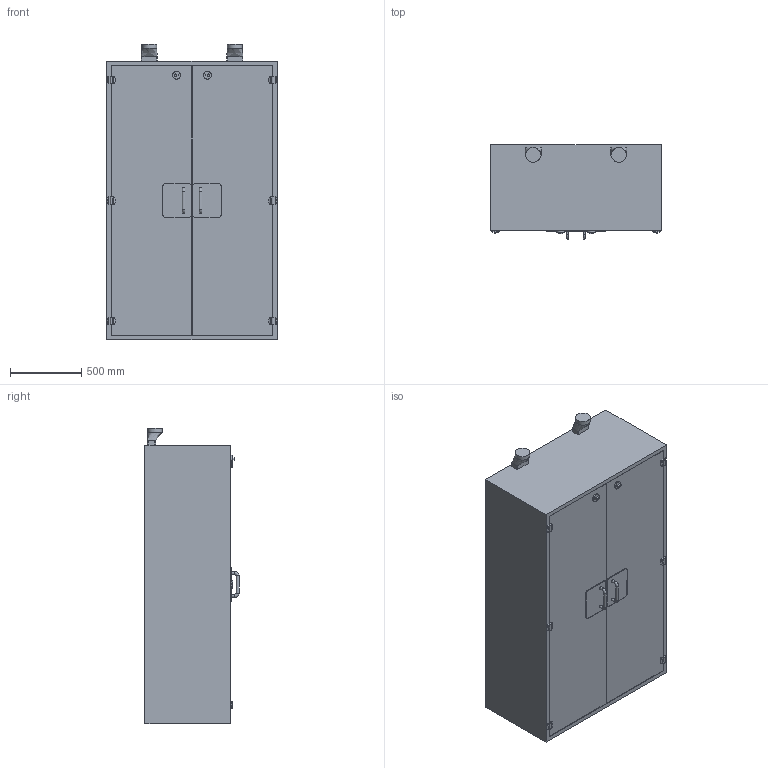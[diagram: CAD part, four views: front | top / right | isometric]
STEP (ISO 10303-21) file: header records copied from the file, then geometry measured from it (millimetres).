
FILE_DESCRIPTION(/* description */ ('Unknown'),/* implementation_level */ '2;1');
FILE_NAME(/* name */ 'ACID pure XL_D00112814',/* time_stamp */ '2021-08-06T10:30:13+02:00',/* author */ ('Unknown'),/* organization */ ('Unknown'),/* preprocessor_version */ 'ST-DEVELOPER v16.7',/* originating_system */ 'Solid Edge',/* authorisation */ 'Unknown');
FILE_SCHEMA (('AUTOMOTIVE_DESIGN {1 0 10303 214 3 1 1}'));
Length unit declared in the file: millimetre
Products named in the file (1): ACID pure XL_D00112814
Bounding box: 1195 x 660 x 2075 mm (x, y, z)
Volume: 1405785175 mm3; surface area: 9073559.5 mm2
Topology: 1 solids, 1 shells, 193 faces, 532 edges, 340 vertices
Faces by surface type: plane 115, cylinder 72, torus 4, bspline 2
Full cylindrical faces by diameter (mm): 20 x6, 55 x2, 103.4 x2
Entity records: 7830 total; most frequent: CARTESIAN_POINT 1527, ORIENTED_EDGE 1028, DIRECTION 1014, EDGE_CURVE 514, LINE 348, VECTOR 348, VERTEX_POINT 338, AXIS2_PLACEMENT_3D 333
